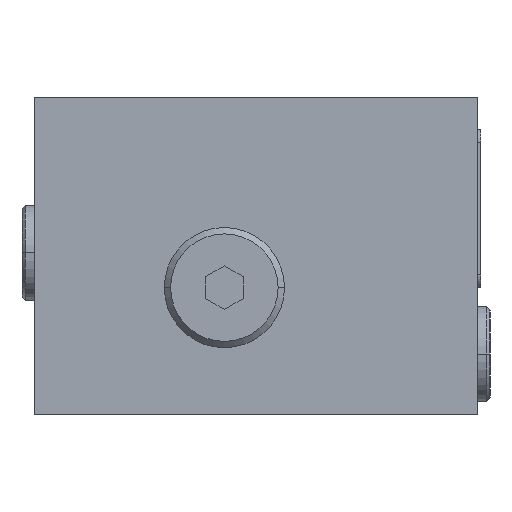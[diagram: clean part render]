
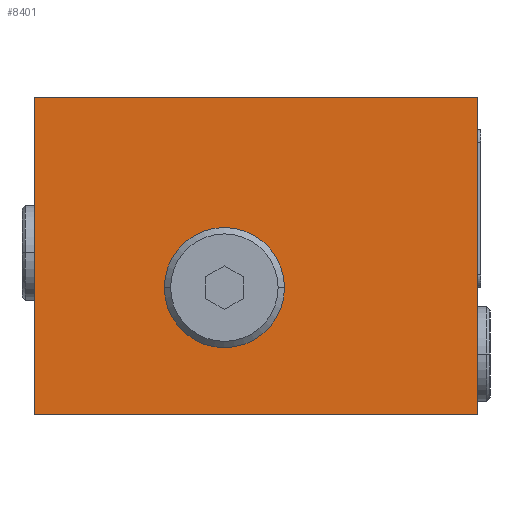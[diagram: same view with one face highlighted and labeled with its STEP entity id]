
A CAD part, left-side view. The second image highlights one B-rep face of the part: STEP entity #8401.
In plain terms, the highlighted planar face has unit normal (-1, 0, 0).
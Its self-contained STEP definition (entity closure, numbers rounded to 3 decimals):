
#91=DIRECTION('',(0.,1.,0.));
#92=VECTOR('',#91,70.);
#93=CARTESIAN_POINT('',(0.,0.,0.));
#94=LINE('',#93,#92);
#95=DIRECTION('',(0.,0.,-1.));
#96=VECTOR('',#95,50.);
#97=CARTESIAN_POINT('',(0.,0.,50.));
#98=LINE('',#97,#96);
#99=CARTESIAN_POINT('',(0.,40.,20.));
#100=DIRECTION('',(-1.,0.,0.));
#101=DIRECTION('',(0.,-1.,0.));
#102=AXIS2_PLACEMENT_3D('',#99,#100,#101);
#104=CARTESIAN_POINT('',(0.,40.,20.));
#105=DIRECTION('',(-1.,0.,0.));
#106=DIRECTION('',(0.,1.,0.));
#107=AXIS2_PLACEMENT_3D('',#104,#105,#106);
#113=DIRECTION('',(0.,0.,-1.));
#114=VECTOR('',#113,50.);
#115=CARTESIAN_POINT('',(0.,70.,50.));
#116=LINE('',#115,#114);
#183=DIRECTION('',(0.,1.,0.));
#184=VECTOR('',#183,70.);
#185=CARTESIAN_POINT('',(0.,0.,50.));
#186=LINE('',#185,#184);
#6529=CARTESIAN_POINT('',(0.,0.,0.));
#6530=CARTESIAN_POINT('',(0.,70.,0.));
#6531=VERTEX_POINT('',#6529);
#6532=VERTEX_POINT('',#6530);
#6573=CARTESIAN_POINT('',(0.,70.,50.));
#6574=VERTEX_POINT('',#6573);
#6575=CARTESIAN_POINT('',(0.,0.,50.));
#6576=VERTEX_POINT('',#6575);
#6577=CARTESIAN_POINT('',(0.,30.5,20.));
#6578=CARTESIAN_POINT('',(0.,49.5,20.));
#6579=VERTEX_POINT('',#6577);
#6580=VERTEX_POINT('',#6578);
#8381=CARTESIAN_POINT('',(0.,70.,0.));
#8382=DIRECTION('',(-1.,0.,0.));
#8383=DIRECTION('',(0.,-1.,0.));
#8384=AXIS2_PLACEMENT_3D('',#8381,#8382,#8383);
#8385=PLANE('',#8384);
#8386=ORIENTED_EDGE('',*,*,#8316,.T.);
#8388=ORIENTED_EDGE('',*,*,#8387,.F.);
#8390=ORIENTED_EDGE('',*,*,#8389,.F.);
#8392=ORIENTED_EDGE('',*,*,#8391,.T.);
#8393=EDGE_LOOP('',(#8386,#8388,#8390,#8392));
#8394=FACE_OUTER_BOUND('',#8393,.F.);
#8396=ORIENTED_EDGE('',*,*,#8395,.T.);
#8398=ORIENTED_EDGE('',*,*,#8397,.T.);
#8399=EDGE_LOOP('',(#8396,#8398));
#8400=FACE_BOUND('',#8399,.F.);
#103=CIRCLE('',#102,9.5);
#108=CIRCLE('',#107,9.5);
#8316=EDGE_CURVE('',#6531,#6532,#94,.T.);
#8387=EDGE_CURVE('',#6574,#6532,#116,.T.);
#8389=EDGE_CURVE('',#6576,#6574,#186,.T.);
#8391=EDGE_CURVE('',#6576,#6531,#98,.T.);
#8395=EDGE_CURVE('',#6579,#6580,#103,.T.);
#8397=EDGE_CURVE('',#6580,#6579,#108,.T.);
#8401=ADVANCED_FACE('',(#8394,#8400),#8385,.T.);
